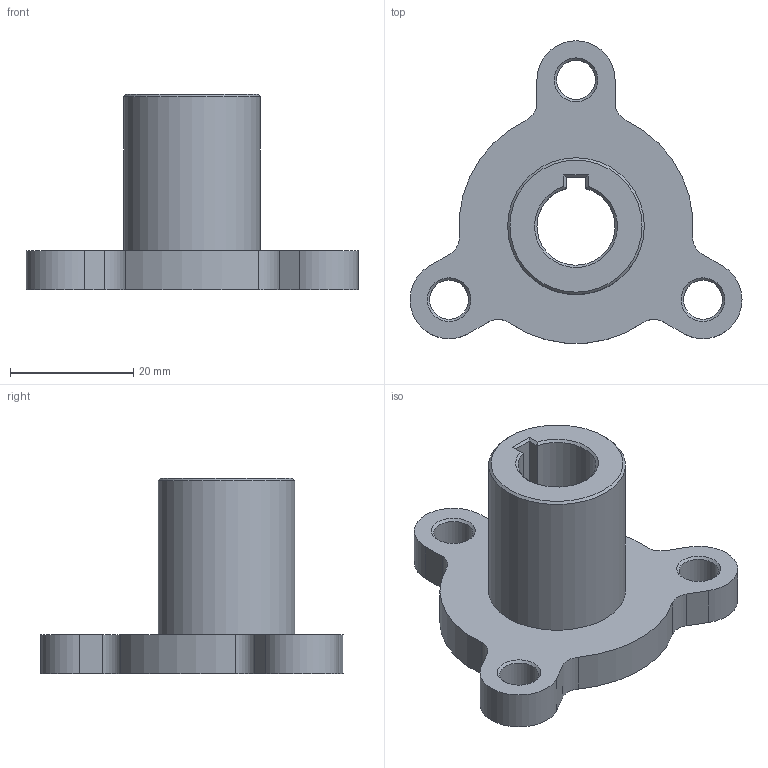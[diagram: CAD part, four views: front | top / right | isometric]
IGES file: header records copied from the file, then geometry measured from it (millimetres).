
Global section: file name: No Iges File Name specified; native system: AutoDesk Inventor R6.0; preprocessor: AutoDesk Inventor Iges Exporter R6.0; author: No Author specified; organization: No Organization specified; date: 20051231.123018; units: inch
Bounding box: 53.98 x 49.16 x 31.75 mm (x, y, z)
Surface area: 7177.4 mm2 (no closed solid volume)
Topology: 0 solids, 0 shells, 44 faces, 213 edges, 202 vertices
Faces by surface type: revolution 26, plane 18
